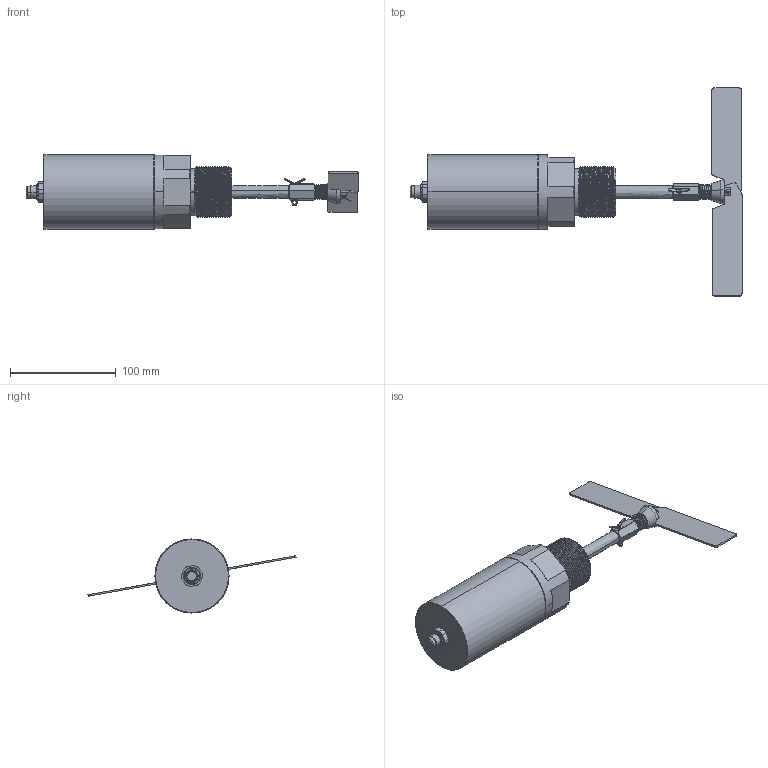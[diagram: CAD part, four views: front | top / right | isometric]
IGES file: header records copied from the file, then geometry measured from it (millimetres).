
Start section: SolidWorks IGES file using analytic representation for surfaces
Global section: file name: C:\Users\Äîì\Desktop\Äàò÷èêè ìîäåëè\P3 220VAC\Ñêëàäíàÿ ëîïàñòü\Eiiian\MBA888_230V ðåçüáà.STP.IGS; native system: SolidWorks 2020; preprocessor: SolidWorks 2020; author: Äîì; date: 210228.231113; units: millimetre
Bounding box: 314 x 196.85 x 70 mm (x, y, z)
Surface area: 110605.7 mm2 (no closed solid volume)
Topology: 0 solids, 0 shells, 419 faces, 6420 edges, 6416 vertices
Faces by surface type: revolution 240, bspline 179
